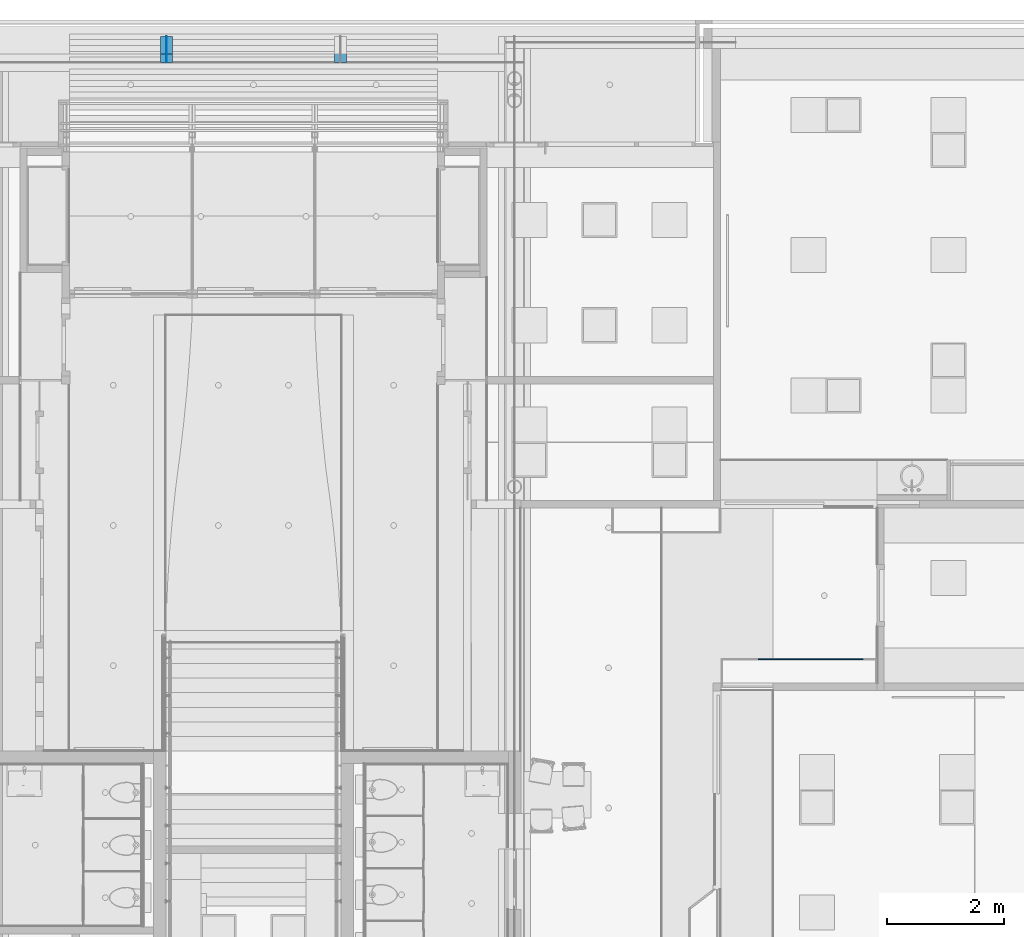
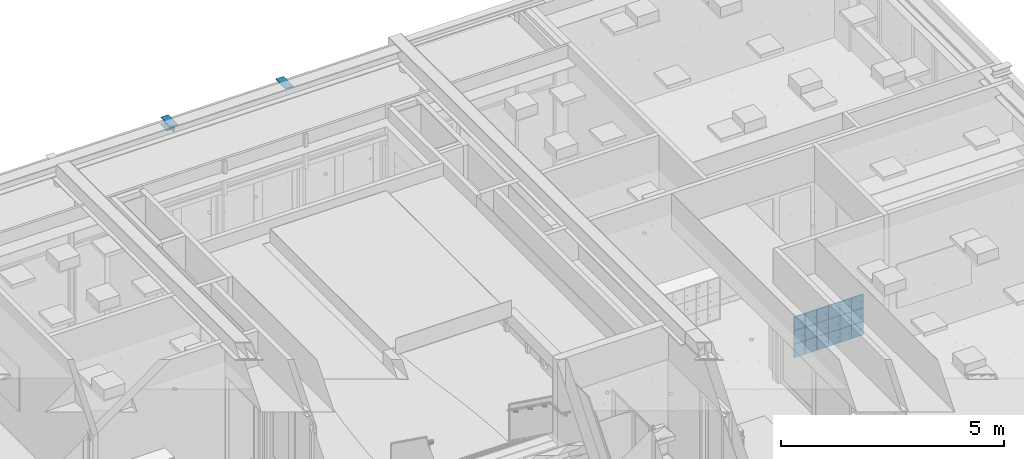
# One storey, part 147 of 347: 22 building element parts, 3 elements without a shape of their own.
"""IFC2X3 building model written with IfcOpenShell, lengths in millimetres."""

from ifc_helpers import new_model, entity, si_unit, converted_unit, derived_unit, money_unit, direction, frame, origin_with_axes, place, context, subcontext, project, spatial, faceted_brep, material, type_object, element, aggregate, save


model = new_model("IFC2X3")

# Units and contexts
model_context = context("Model", 3, precision=0.01, world=origin_with_axes(), true_north=direction((0.0, 1.0)))
plan_context = context("Plan", 3, precision=0.01, world=origin_with_axes(), true_north=direction((0.0, 1.0)))
body_context = subcontext(model_context, "Body", "Model", "MODEL_VIEW")
ifc_project = project(units=[si_unit("LENGTHUNIT", "METRE", prefix="MILLI"), si_unit("AREAUNIT", "SQUARE_METRE"), si_unit("VOLUMEUNIT", "CUBIC_METRE"), converted_unit("PLANEANGLEUNIT", "DEGREE", entity("IfcPlaneAngleMeasure", 0.0174532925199), si_unit("PLANEANGLEUNIT", "RADIAN"), dimensions=[0, 0, 0, 0, 0, 0, 0]), money_unit("EUR"), converted_unit("TIMEUNIT", "Year", entity("IfcTimeMeasure", 31556926.0), si_unit("TIMEUNIT", "SECOND"), dimensions=[0, 0, 1, 0, 0, 0, 0]), si_unit("MASSUNIT", "GRAM", prefix="KILO"), si_unit("THERMODYNAMICTEMPERATUREUNIT", "DEGREE_CELSIUS"), si_unit("LUMINOUSINTENSITYUNIT", "LUMEN"), si_unit("ENERGYUNIT", "JOULE", prefix="MEGA"), derived_unit("THERMALCONDUCTANCEUNIT", [(si_unit("POWERUNIT", "WATT"), 1), (si_unit("LENGTHUNIT", "METRE"), -1), (si_unit("THERMODYNAMICTEMPERATUREUNIT", "KELVIN"), -1)]), derived_unit("SPECIFICHEATCAPACITYUNIT", [(si_unit("ENERGYUNIT", "JOULE"), 1), (si_unit("MASSUNIT", "GRAM", prefix="KILO"), -1), (si_unit("THERMODYNAMICTEMPERATUREUNIT", "KELVIN"), -1)]), derived_unit("MASSDENSITYUNIT", [(si_unit("MASSUNIT", "GRAM", prefix="KILO"), 1), (si_unit("VOLUMEUNIT", "CUBIC_METRE"), -1)])], contexts=[model_context, plan_context])

# Site, building, storey
site_placement = place(None, origin_with_axes())
site = spatial("IfcSite", under=ifc_project, at=site_placement, Name="Site", CompositionType="ELEMENT")
building_placement = place(site_placement, origin_with_axes())
building = spatial("IfcBuilding", under=site, at=building_placement, Name="Naam gebouw", CompositionType="ELEMENT")
storey_placement = place(building_placement, origin_with_axes())
storey = spatial("IfcBuildingStorey", under=building, at=storey_placement, Name="begane grond", CompositionType="ELEMENT", Elevation=0.0)

# Beam, building element parts
beam_type_1 = type_object("IfcBeamType", Name="VI Garderobe 05 2412 x 1122", PredefinedType="BEAM")
beam_1_placement = place(storey_placement, frame((50519.0, 36380.5000133, 0.0), z_axis=(0.0, 0.0, 1.0), x_axis=(-1.0, 0.0, 0.0)))
beam_1 = element("IfcBeam", 1, at=beam_1_placement, inside=storey, type_object=beam_type_1, Name="28_Balk-x", ObjectType="BEAM")
ifc_material_1 = material(Name="Hout - Lockers")
building_element_part_1_placement = place(beam_1_placement, origin_with_axes())
building_element_part_1 = element("IfcBuildingElementPart", 2, at=building_element_part_1_placement, material=ifc_material_1, Name="Hout - Lockers", context=body_context, shape_type="Brep", body=[
    faceted_brep([(0.0, 18.0, 1175.0), (0.0, 18.0, 802.0), (0.0, 0.0, 802.0), (0.0, 0.0, 1175.0), (303.0, 18.0, 1175.0), (303.0, 18.0, 802.0), (76.2025761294, 18.0, 975.016154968), (72.7648820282, 18.0, 985.596289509), (63.7648820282, 18.0, 992.135172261), (52.6402702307, 18.0, 992.135172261), (43.6402702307, 18.0, 985.596289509), (40.2025761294, 18.0, 975.016154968), (43.6402702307, 18.0, 964.436020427), (52.6402702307, 18.0, 957.897137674), (63.7648820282, 18.0, 957.897137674), (72.7648820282, 18.0, 964.436020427), (303.0, 0.0, 802.0), (303.0, 0.0, 1175.0), (76.2025761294, 0.0, 975.016154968), (72.7648820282, 0.0, 964.436020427), (63.7648820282, 0.0, 957.897137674), (52.6402702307, 0.0, 957.897137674), (43.6402702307, 0.0, 964.436020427), (40.2025761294, 0.0, 975.016154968), (43.6402702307, 0.0, 985.596289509), (52.6402702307, 0.0, 992.135172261), (63.7648820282, 0.0, 992.135172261), (72.7648820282, 0.0, 985.596289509)], [[[0, 1, 2, 3]], [[0, 4, 5, 1], [6, 7, 8, 9, 10, 11, 12, 13, 14, 15]], [[1, 5, 16, 2]], [[3, 2, 16, 17], [18, 19, 20, 21, 22, 23, 24, 25, 26, 27]], [[4, 0, 3, 17]], [[5, 4, 17, 16]], [[7, 6, 18, 27]], [[8, 7, 27, 26]], [[9, 8, 26, 25]], [[10, 9, 25, 24]], [[11, 10, 24, 23]], [[12, 11, 23, 22]], [[13, 12, 22, 21]], [[14, 13, 21, 20]], [[15, 14, 20, 19]], [[6, 15, 19, 18]]]),
])
building_element_part_2_placement = place(beam_1_placement, origin_with_axes())
building_element_part_2 = element("IfcBuildingElementPart", 3, at=building_element_part_2_placement, material=ifc_material_1, Name="Hout - Lockers", context=body_context, shape_type="Brep", body=[
    faceted_brep([(0.0, 18.0, 796.0), (0.0, 18.0, 432.0), (0.0, 0.0, 432.0), (0.0, 0.0, 796.0), (303.0, 18.0, 796.0), (303.0, 18.0, 432.0), (44.5601698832, 18.0, 596.032777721), (47.9978639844, 18.0, 585.45264318), (56.9978639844, 18.0, 578.913760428), (68.1224757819, 18.0, 578.913760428), (77.1224757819, 18.0, 585.45264318), (80.5601698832, 18.0, 596.032777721), (77.1224757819, 18.0, 606.612912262), (68.1224757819, 18.0, 613.151795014), (56.9978639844, 18.0, 613.151795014), (47.9978639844, 18.0, 606.612912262), (303.0, 0.0, 432.0), (303.0, 0.0, 796.0), (44.5601698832, 0.0, 596.032777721), (47.9978639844, 0.0, 606.612912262), (56.9978639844, 0.0, 613.151795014), (68.1224757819, 0.0, 613.151795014), (77.1224757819, 0.0, 606.612912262), (80.5601698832, 0.0, 596.032777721), (77.1224757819, 0.0, 585.45264318), (68.1224757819, 0.0, 578.913760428), (56.9978639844, 0.0, 578.913760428), (47.9978639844, 0.0, 585.45264318)], [[[0, 1, 2, 3]], [[0, 4, 5, 1], [6, 7, 8, 9, 10, 11, 12, 13, 14, 15]], [[1, 5, 16, 2]], [[3, 2, 16, 17], [18, 19, 20, 21, 22, 23, 24, 25, 26, 27]], [[4, 0, 3, 17]], [[5, 4, 17, 16]], [[7, 6, 18, 27]], [[8, 7, 27, 26]], [[9, 8, 26, 25]], [[10, 9, 25, 24]], [[11, 10, 24, 23]], [[12, 11, 23, 22]], [[13, 12, 22, 21]], [[14, 13, 21, 20]], [[15, 14, 20, 19]], [[6, 15, 19, 18]]]),
])
building_element_part_3_placement = place(beam_1_placement, origin_with_axes())
building_element_part_3 = element("IfcBuildingElementPart", 4, at=building_element_part_3_placement, material=ifc_material_1, Name="Hout - Lockers", context=body_context, shape_type="Brep", body=[
    faceted_brep([(0.0, 18.0, 426.0), (0.0, 18.0, 53.0), (0.0, 0.0, 53.0), (0.0, 0.0, 426.0), (303.0, 18.0, 426.0), (303.0, 18.0, 53.0), (78.0, 18.0, 226.0), (74.5623058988, 18.0, 236.580134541), (65.5623058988, 18.0, 243.119017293), (54.4376941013, 18.0, 243.119017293), (45.4376941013, 18.0, 236.580134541), (42.0, 18.0, 226.0), (45.4376941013, 18.0, 215.419865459), (54.4376941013, 18.0, 208.880982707), (65.5623058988, 18.0, 208.880982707), (74.5623058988, 18.0, 215.419865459), (303.0, 0.0, 53.0), (303.0, 0.0, 426.0), (78.0, 0.0, 226.0), (74.5623058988, 0.0, 215.419865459), (65.5623058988, 0.0, 208.880982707), (54.4376941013, 0.0, 208.880982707), (45.4376941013, 0.0, 215.419865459), (42.0, 0.0, 226.0), (45.4376941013, 0.0, 236.580134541), (54.4376941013, 0.0, 243.119017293), (65.5623058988, 0.0, 243.119017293), (74.5623058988, 0.0, 236.580134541)], [[[0, 1, 2, 3]], [[0, 4, 5, 1], [6, 7, 8, 9, 10, 11, 12, 13, 14, 15]], [[1, 5, 16, 2]], [[3, 2, 16, 17], [18, 19, 20, 21, 22, 23, 24, 25, 26, 27]], [[4, 0, 3, 17]], [[5, 4, 17, 16]], [[7, 6, 18, 27]], [[8, 7, 27, 26]], [[9, 8, 26, 25]], [[10, 9, 25, 24]], [[11, 10, 24, 23]], [[12, 11, 23, 22]], [[13, 12, 22, 21]], [[14, 13, 21, 20]], [[15, 14, 20, 19]], [[6, 15, 19, 18]]]),
])
building_element_part_4_placement = place(beam_1_placement, origin_with_axes())
building_element_part_4 = element("IfcBuildingElementPart", 5, at=building_element_part_4_placement, material=ifc_material_1, Name="Hout - Lockers", context=body_context, shape_type="Brep", body=[
    faceted_brep([(1509.0, 18.0, 1175.0), (1509.0, 18.0, 802.0), (1509.0, 0.0, 802.0), (1509.0, 0.0, 1175.0), (1803.0, 18.0, 1175.0), (1803.0, 18.0, 802.0), (1587.0, 18.0, 975.0), (1583.5623059, 18.0, 985.580134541), (1574.5623059, 18.0, 992.119017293), (1563.4376941, 18.0, 992.119017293), (1554.4376941, 18.0, 985.580134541), (1551.0, 18.0, 975.0), (1554.4376941, 18.0, 964.419865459), (1563.4376941, 18.0, 957.880982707), (1574.5623059, 18.0, 957.880982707), (1583.5623059, 18.0, 964.419865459), (1803.0, 0.0, 802.0), (1803.0, 0.0, 1175.0), (1587.0, 0.0, 975.0), (1583.5623059, 0.0, 964.419865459), (1574.5623059, 0.0, 957.880982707), (1563.4376941, 0.0, 957.880982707), (1554.4376941, 0.0, 964.419865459), (1551.0, 0.0, 975.0), (1554.4376941, 0.0, 985.580134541), (1563.4376941, 0.0, 992.119017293), (1574.5623059, 0.0, 992.119017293), (1583.5623059, 0.0, 985.580134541)], [[[0, 1, 2, 3]], [[0, 4, 5, 1], [6, 7, 8, 9, 10, 11, 12, 13, 14, 15]], [[1, 5, 16, 2]], [[3, 2, 16, 17], [18, 19, 20, 21, 22, 23, 24, 25, 26, 27]], [[4, 0, 3, 17]], [[5, 4, 17, 16]], [[7, 6, 18, 27]], [[8, 7, 27, 26]], [[9, 8, 26, 25]], [[10, 9, 25, 24]], [[11, 10, 24, 23]], [[12, 11, 23, 22]], [[13, 12, 22, 21]], [[14, 13, 21, 20]], [[15, 14, 20, 19]], [[6, 15, 19, 18]]]),
])
building_element_part_5_placement = place(beam_1_placement, origin_with_axes())
building_element_part_5 = element("IfcBuildingElementPart", 6, at=building_element_part_5_placement, material=ifc_material_1, Name="Hout - Lockers", context=body_context, shape_type="Brep", body=[
    faceted_brep([(1509.0, 18.0, 796.0), (1509.0, 18.0, 432.0), (1509.0, 0.0, 432.0), (1509.0, 0.0, 796.0), (1803.0, 18.0, 796.0), (1803.0, 18.0, 432.0), (1587.0, 18.0, 596.0), (1583.5623059, 18.0, 606.580134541), (1574.5623059, 18.0, 613.119017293), (1563.4376941, 18.0, 613.119017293), (1554.4376941, 18.0, 606.580134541), (1551.0, 18.0, 596.0), (1554.4376941, 18.0, 585.419865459), (1563.4376941, 18.0, 578.880982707), (1574.5623059, 18.0, 578.880982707), (1583.5623059, 18.0, 585.419865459), (1803.0, 0.0, 432.0), (1803.0, 0.0, 796.0), (1587.0, 0.0, 596.0), (1583.5623059, 0.0, 585.419865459), (1574.5623059, 0.0, 578.880982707), (1563.4376941, 0.0, 578.880982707), (1554.4376941, 0.0, 585.419865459), (1551.0, 0.0, 596.0), (1554.4376941, 0.0, 606.580134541), (1563.4376941, 0.0, 613.119017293), (1574.5623059, 0.0, 613.119017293), (1583.5623059, 0.0, 606.580134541)], [[[0, 1, 2, 3]], [[0, 4, 5, 1], [6, 7, 8, 9, 10, 11, 12, 13, 14, 15]], [[1, 5, 16, 2]], [[3, 2, 16, 17], [18, 19, 20, 21, 22, 23, 24, 25, 26, 27]], [[4, 0, 3, 17]], [[5, 4, 17, 16]], [[7, 6, 18, 27]], [[8, 7, 27, 26]], [[9, 8, 26, 25]], [[10, 9, 25, 24]], [[11, 10, 24, 23]], [[12, 11, 23, 22]], [[13, 12, 22, 21]], [[14, 13, 21, 20]], [[15, 14, 20, 19]], [[6, 15, 19, 18]]]),
])
building_element_part_6_placement = place(beam_1_placement, origin_with_axes())
building_element_part_6 = element("IfcBuildingElementPart", 7, at=building_element_part_6_placement, material=ifc_material_1, Name="Hout - Lockers", context=body_context, shape_type="Brep", body=[
    faceted_brep([(1509.0, 18.0, 426.0), (1509.0, 18.0, 53.0), (1509.0, 0.0, 53.0), (1509.0, 0.0, 426.0), (1803.0, 18.0, 426.0), (1803.0, 18.0, 53.0), (1587.0, 18.0, 226.0), (1583.5623059, 18.0, 236.580134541), (1574.5623059, 18.0, 243.119017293), (1563.4376941, 18.0, 243.119017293), (1554.4376941, 18.0, 236.580134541), (1551.0, 18.0, 226.0), (1554.4376941, 18.0, 215.419865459), (1563.4376941, 18.0, 208.880982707), (1574.5623059, 18.0, 208.880982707), (1583.5623059, 18.0, 215.419865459), (1803.0, 0.0, 53.0), (1803.0, 0.0, 426.0), (1587.0, 0.0, 226.0), (1583.5623059, 0.0, 215.419865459), (1574.5623059, 0.0, 208.880982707), (1563.4376941, 0.0, 208.880982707), (1554.4376941, 0.0, 215.419865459), (1551.0, 0.0, 226.0), (1554.4376941, 0.0, 236.580134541), (1563.4376941, 0.0, 243.119017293), (1574.5623059, 0.0, 243.119017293), (1583.5623059, 0.0, 236.580134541)], [[[0, 1, 2, 3]], [[0, 4, 5, 1], [6, 7, 8, 9, 10, 11, 12, 13, 14, 15]], [[1, 5, 16, 2]], [[3, 2, 16, 17], [18, 19, 20, 21, 22, 23, 24, 25, 26, 27]], [[4, 0, 3, 17]], [[5, 4, 17, 16]], [[7, 6, 18, 27]], [[8, 7, 27, 26]], [[9, 8, 26, 25]], [[10, 9, 25, 24]], [[11, 10, 24, 23]], [[12, 11, 23, 22]], [[13, 12, 22, 21]], [[14, 13, 21, 20]], [[15, 14, 20, 19]], [[6, 15, 19, 18]]]),
])
building_element_part_7_placement = place(beam_1_placement, origin_with_axes())
building_element_part_7 = element("IfcBuildingElementPart", 8, at=building_element_part_7_placement, material=ifc_material_1, Name="Hout - Lockers", context=body_context, shape_type="Brep", body=[
    faceted_brep([(1209.0, 18.0, 1175.0), (1209.0, 18.0, 802.0), (1209.0, 0.0, 802.0), (1209.0, 0.0, 1175.0), (1503.0, 18.0, 1175.0), (1503.0, 18.0, 802.0), (1287.0, 18.0, 975.0), (1283.5623059, 18.0, 985.580134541), (1274.5623059, 18.0, 992.119017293), (1263.4376941, 18.0, 992.119017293), (1254.4376941, 18.0, 985.580134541), (1251.0, 18.0, 975.0), (1254.4376941, 18.0, 964.419865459), (1263.4376941, 18.0, 957.880982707), (1274.5623059, 18.0, 957.880982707), (1283.5623059, 18.0, 964.419865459), (1503.0, 0.0, 802.0), (1503.0, 0.0, 1175.0), (1287.0, 0.0, 975.0), (1283.5623059, 0.0, 964.419865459), (1274.5623059, 0.0, 957.880982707), (1263.4376941, 0.0, 957.880982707), (1254.4376941, 0.0, 964.419865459), (1251.0, 0.0, 975.0), (1254.4376941, 0.0, 985.580134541), (1263.4376941, 0.0, 992.119017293), (1274.5623059, 0.0, 992.119017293), (1283.5623059, 0.0, 985.580134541)], [[[0, 1, 2, 3]], [[0, 4, 5, 1], [6, 7, 8, 9, 10, 11, 12, 13, 14, 15]], [[1, 5, 16, 2]], [[3, 2, 16, 17], [18, 19, 20, 21, 22, 23, 24, 25, 26, 27]], [[4, 0, 3, 17]], [[5, 4, 17, 16]], [[7, 6, 18, 27]], [[8, 7, 27, 26]], [[9, 8, 26, 25]], [[10, 9, 25, 24]], [[11, 10, 24, 23]], [[12, 11, 23, 22]], [[13, 12, 22, 21]], [[14, 13, 21, 20]], [[15, 14, 20, 19]], [[6, 15, 19, 18]]]),
])
building_element_part_8_placement = place(beam_1_placement, origin_with_axes())
building_element_part_8 = element("IfcBuildingElementPart", 9, at=building_element_part_8_placement, material=ifc_material_1, Name="Hout - Lockers", context=body_context, shape_type="Brep", body=[
    faceted_brep([(1209.0, 18.0, 796.0), (1209.0, 18.0, 432.0), (1209.0, 0.0, 432.0), (1209.0, 0.0, 796.0), (1503.0, 18.0, 796.0), (1503.0, 18.0, 432.0), (1287.0, 18.0, 596.0), (1283.5623059, 18.0, 606.580134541), (1274.5623059, 18.0, 613.119017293), (1263.4376941, 18.0, 613.119017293), (1254.4376941, 18.0, 606.580134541), (1251.0, 18.0, 596.0), (1254.4376941, 18.0, 585.419865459), (1263.4376941, 18.0, 578.880982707), (1274.5623059, 18.0, 578.880982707), (1283.5623059, 18.0, 585.419865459), (1503.0, 0.0, 432.0), (1503.0, 0.0, 796.0), (1287.0, 0.0, 596.0), (1283.5623059, 0.0, 585.419865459), (1274.5623059, 0.0, 578.880982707), (1263.4376941, 0.0, 578.880982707), (1254.4376941, 0.0, 585.419865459), (1251.0, 0.0, 596.0), (1254.4376941, 0.0, 606.580134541), (1263.4376941, 0.0, 613.119017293), (1274.5623059, 0.0, 613.119017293), (1283.5623059, 0.0, 606.580134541)], [[[0, 1, 2, 3]], [[0, 4, 5, 1], [6, 7, 8, 9, 10, 11, 12, 13, 14, 15]], [[1, 5, 16, 2]], [[3, 2, 16, 17], [18, 19, 20, 21, 22, 23, 24, 25, 26, 27]], [[4, 0, 3, 17]], [[5, 4, 17, 16]], [[7, 6, 18, 27]], [[8, 7, 27, 26]], [[9, 8, 26, 25]], [[10, 9, 25, 24]], [[11, 10, 24, 23]], [[12, 11, 23, 22]], [[13, 12, 22, 21]], [[14, 13, 21, 20]], [[15, 14, 20, 19]], [[6, 15, 19, 18]]]),
])
building_element_part_9_placement = place(beam_1_placement, origin_with_axes())
building_element_part_9 = element("IfcBuildingElementPart", 10, at=building_element_part_9_placement, material=ifc_material_1, Name="Hout - Lockers", context=body_context, shape_type="Brep", body=[
    faceted_brep([(1209.0, 18.0, 426.0), (1209.0, 18.0, 53.0), (1209.0, 0.0, 53.0), (1209.0, 0.0, 426.0), (1503.0, 18.0, 426.0), (1503.0, 18.0, 53.0), (1287.0, 18.0, 226.0), (1283.5623059, 18.0, 236.580134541), (1274.5623059, 18.0, 243.119017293), (1263.4376941, 18.0, 243.119017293), (1254.4376941, 18.0, 236.580134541), (1251.0, 18.0, 226.0), (1254.4376941, 18.0, 215.419865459), (1263.4376941, 18.0, 208.880982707), (1274.5623059, 18.0, 208.880982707), (1283.5623059, 18.0, 215.419865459), (1503.0, 0.0, 53.0), (1503.0, 0.0, 426.0), (1287.0, 0.0, 226.0), (1283.5623059, 0.0, 215.419865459), (1274.5623059, 0.0, 208.880982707), (1263.4376941, 0.0, 208.880982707), (1254.4376941, 0.0, 215.419865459), (1251.0, 0.0, 226.0), (1254.4376941, 0.0, 236.580134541), (1263.4376941, 0.0, 243.119017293), (1274.5623059, 0.0, 243.119017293), (1283.5623059, 0.0, 236.580134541)], [[[0, 1, 2, 3]], [[0, 4, 5, 1], [6, 7, 8, 9, 10, 11, 12, 13, 14, 15]], [[1, 5, 16, 2]], [[3, 2, 16, 17], [18, 19, 20, 21, 22, 23, 24, 25, 26, 27]], [[4, 0, 3, 17]], [[5, 4, 17, 16]], [[7, 6, 18, 27]], [[8, 7, 27, 26]], [[9, 8, 26, 25]], [[10, 9, 25, 24]], [[11, 10, 24, 23]], [[12, 11, 23, 22]], [[13, 12, 22, 21]], [[14, 13, 21, 20]], [[15, 14, 20, 19]], [[6, 15, 19, 18]]]),
])
building_element_part_10_placement = place(beam_1_placement, origin_with_axes())
building_element_part_10 = element("IfcBuildingElementPart", 11, at=building_element_part_10_placement, material=ifc_material_1, Name="Hout - Lockers", context=body_context, shape_type="Brep", body=[
    faceted_brep([(309.0, 18.0, 1175.0), (309.0, 18.0, 802.0), (309.0, 0.0, 802.0), (309.0, 0.0, 1175.0), (603.0, 18.0, 1175.0), (603.0, 18.0, 802.0), (387.0, 18.0, 975.0), (383.562305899, 18.0, 985.580134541), (374.562305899, 18.0, 992.119017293), (363.437694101, 18.0, 992.119017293), (354.437694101, 18.0, 985.580134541), (351.0, 18.0, 975.0), (354.437694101, 18.0, 964.419865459), (363.437694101, 18.0, 957.880982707), (374.562305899, 18.0, 957.880982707), (383.562305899, 18.0, 964.419865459), (603.0, 0.0, 802.0), (603.0, 0.0, 1175.0), (387.0, 0.0, 975.0), (383.562305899, 0.0, 964.419865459), (374.562305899, 0.0, 957.880982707), (363.437694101, 0.0, 957.880982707), (354.437694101, 0.0, 964.419865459), (351.0, 0.0, 975.0), (354.437694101, 0.0, 985.580134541), (363.437694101, 0.0, 992.119017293), (374.562305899, 0.0, 992.119017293), (383.562305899, 0.0, 985.580134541)], [[[0, 1, 2, 3]], [[0, 4, 5, 1], [6, 7, 8, 9, 10, 11, 12, 13, 14, 15]], [[1, 5, 16, 2]], [[3, 2, 16, 17], [18, 19, 20, 21, 22, 23, 24, 25, 26, 27]], [[4, 0, 3, 17]], [[5, 4, 17, 16]], [[7, 6, 18, 27]], [[8, 7, 27, 26]], [[9, 8, 26, 25]], [[10, 9, 25, 24]], [[11, 10, 24, 23]], [[12, 11, 23, 22]], [[13, 12, 22, 21]], [[14, 13, 21, 20]], [[15, 14, 20, 19]], [[6, 15, 19, 18]]]),
])
building_element_part_11_placement = place(beam_1_placement, origin_with_axes())
building_element_part_11 = element("IfcBuildingElementPart", 12, at=building_element_part_11_placement, material=ifc_material_1, Name="Hout - Lockers", context=body_context, shape_type="Brep", body=[
    faceted_brep([(309.0, 18.0, 796.0), (309.0, 18.0, 432.0), (309.0, 0.0, 432.0), (309.0, 0.0, 796.0), (603.0, 18.0, 796.0), (603.0, 18.0, 432.0), (387.0, 18.0, 596.0), (383.562305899, 18.0, 606.580134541), (374.562305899, 18.0, 613.119017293), (363.437694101, 18.0, 613.119017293), (354.437694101, 18.0, 606.580134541), (351.0, 18.0, 596.0), (354.437694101, 18.0, 585.419865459), (363.437694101, 18.0, 578.880982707), (374.562305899, 18.0, 578.880982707), (383.562305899, 18.0, 585.419865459), (603.0, 0.0, 432.0), (603.0, 0.0, 796.0), (387.0, 0.0, 596.0), (383.562305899, 0.0, 585.419865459), (374.562305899, 0.0, 578.880982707), (363.437694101, 0.0, 578.880982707), (354.437694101, 0.0, 585.419865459), (351.0, 0.0, 596.0), (354.437694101, 0.0, 606.580134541), (363.437694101, 0.0, 613.119017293), (374.562305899, 0.0, 613.119017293), (383.562305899, 0.0, 606.580134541)], [[[0, 1, 2, 3]], [[0, 4, 5, 1], [6, 7, 8, 9, 10, 11, 12, 13, 14, 15]], [[1, 5, 16, 2]], [[3, 2, 16, 17], [18, 19, 20, 21, 22, 23, 24, 25, 26, 27]], [[4, 0, 3, 17]], [[5, 4, 17, 16]], [[7, 6, 18, 27]], [[8, 7, 27, 26]], [[9, 8, 26, 25]], [[10, 9, 25, 24]], [[11, 10, 24, 23]], [[12, 11, 23, 22]], [[13, 12, 22, 21]], [[14, 13, 21, 20]], [[15, 14, 20, 19]], [[6, 15, 19, 18]]]),
])
building_element_part_12_placement = place(beam_1_placement, origin_with_axes())
building_element_part_12 = element("IfcBuildingElementPart", 13, at=building_element_part_12_placement, material=ifc_material_1, Name="Hout - Lockers", context=body_context, shape_type="Brep", body=[
    faceted_brep([(309.0, 18.0, 426.0), (309.0, 18.0, 53.0), (309.0, 0.0, 53.0), (309.0, 0.0, 426.0), (603.0, 18.0, 426.0), (603.0, 18.0, 53.0), (387.0, 18.0, 226.0), (383.562305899, 18.0, 236.580134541), (374.562305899, 18.0, 243.119017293), (363.437694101, 18.0, 243.119017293), (354.437694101, 18.0, 236.580134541), (351.0, 18.0, 226.0), (354.437694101, 18.0, 215.419865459), (363.437694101, 18.0, 208.880982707), (374.562305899, 18.0, 208.880982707), (383.562305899, 18.0, 215.419865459), (603.0, 0.0, 53.0), (603.0, 0.0, 426.0), (387.0, 0.0, 226.0), (383.562305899, 0.0, 215.419865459), (374.562305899, 0.0, 208.880982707), (363.437694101, 0.0, 208.880982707), (354.437694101, 0.0, 215.419865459), (351.0, 0.0, 226.0), (354.437694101, 0.0, 236.580134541), (363.437694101, 0.0, 243.119017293), (374.562305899, 0.0, 243.119017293), (383.562305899, 0.0, 236.580134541)], [[[0, 1, 2, 3]], [[0, 4, 5, 1], [6, 7, 8, 9, 10, 11, 12, 13, 14, 15]], [[1, 5, 16, 2]], [[3, 2, 16, 17], [18, 19, 20, 21, 22, 23, 24, 25, 26, 27]], [[4, 0, 3, 17]], [[5, 4, 17, 16]], [[7, 6, 18, 27]], [[8, 7, 27, 26]], [[9, 8, 26, 25]], [[10, 9, 25, 24]], [[11, 10, 24, 23]], [[12, 11, 23, 22]], [[13, 12, 22, 21]], [[14, 13, 21, 20]], [[15, 14, 20, 19]], [[6, 15, 19, 18]]]),
])
building_element_part_13_placement = place(beam_1_placement, origin_with_axes())
building_element_part_13 = element("IfcBuildingElementPart", 14, at=building_element_part_13_placement, material=ifc_material_1, Name="Hout - Lockers", context=body_context, shape_type="Brep", body=[
    faceted_brep([(909.0, 18.0, 1175.0), (909.0, 18.0, 802.0), (909.0, 0.0, 802.0), (909.0, 0.0, 1175.0), (1203.0, 18.0, 1175.0), (1203.0, 18.0, 802.0), (987.0, 18.0, 975.0), (983.562305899, 18.0, 985.580134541), (974.562305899, 18.0, 992.119017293), (963.437694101, 18.0, 992.119017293), (954.437694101, 18.0, 985.580134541), (951.0, 18.0, 975.0), (954.437694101, 18.0, 964.419865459), (963.437694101, 18.0, 957.880982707), (974.562305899, 18.0, 957.880982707), (983.562305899, 18.0, 964.419865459), (1203.0, 0.0, 802.0), (1203.0, 0.0, 1175.0), (987.0, 0.0, 975.0), (983.562305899, 0.0, 964.419865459), (974.562305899, 0.0, 957.880982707), (963.437694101, 0.0, 957.880982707), (954.437694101, 0.0, 964.419865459), (951.0, 0.0, 975.0), (954.437694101, 0.0, 985.580134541), (963.437694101, 0.0, 992.119017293), (974.562305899, 0.0, 992.119017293), (983.562305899, 0.0, 985.580134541)], [[[0, 1, 2, 3]], [[0, 4, 5, 1], [6, 7, 8, 9, 10, 11, 12, 13, 14, 15]], [[1, 5, 16, 2]], [[3, 2, 16, 17], [18, 19, 20, 21, 22, 23, 24, 25, 26, 27]], [[4, 0, 3, 17]], [[5, 4, 17, 16]], [[7, 6, 18, 27]], [[8, 7, 27, 26]], [[9, 8, 26, 25]], [[10, 9, 25, 24]], [[11, 10, 24, 23]], [[12, 11, 23, 22]], [[13, 12, 22, 21]], [[14, 13, 21, 20]], [[15, 14, 20, 19]], [[6, 15, 19, 18]]]),
])
building_element_part_14_placement = place(beam_1_placement, origin_with_axes())
building_element_part_14 = element("IfcBuildingElementPart", 15, at=building_element_part_14_placement, material=ifc_material_1, Name="Hout - Lockers", context=body_context, shape_type="Brep", body=[
    faceted_brep([(909.0, 18.0, 796.0), (909.0, 18.0, 432.0), (909.0, 0.0, 432.0), (909.0, 0.0, 796.0), (1203.0, 18.0, 796.0), (1203.0, 18.0, 432.0), (987.0, 18.0, 596.0), (983.562305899, 18.0, 606.580134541), (974.562305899, 18.0, 613.119017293), (963.437694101, 18.0, 613.119017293), (954.437694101, 18.0, 606.580134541), (951.0, 18.0, 596.0), (954.437694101, 18.0, 585.419865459), (963.437694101, 18.0, 578.880982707), (974.562305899, 18.0, 578.880982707), (983.562305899, 18.0, 585.419865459), (1203.0, 0.0, 432.0), (1203.0, 0.0, 796.0), (987.0, 0.0, 596.0), (983.562305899, 0.0, 585.419865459), (974.562305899, 0.0, 578.880982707), (963.437694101, 0.0, 578.880982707), (954.437694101, 0.0, 585.419865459), (951.0, 0.0, 596.0), (954.437694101, 0.0, 606.580134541), (963.437694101, 0.0, 613.119017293), (974.562305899, 0.0, 613.119017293), (983.562305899, 0.0, 606.580134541)], [[[0, 1, 2, 3]], [[0, 4, 5, 1], [6, 7, 8, 9, 10, 11, 12, 13, 14, 15]], [[1, 5, 16, 2]], [[3, 2, 16, 17], [18, 19, 20, 21, 22, 23, 24, 25, 26, 27]], [[4, 0, 3, 17]], [[5, 4, 17, 16]], [[7, 6, 18, 27]], [[8, 7, 27, 26]], [[9, 8, 26, 25]], [[10, 9, 25, 24]], [[11, 10, 24, 23]], [[12, 11, 23, 22]], [[13, 12, 22, 21]], [[14, 13, 21, 20]], [[15, 14, 20, 19]], [[6, 15, 19, 18]]]),
])
building_element_part_15_placement = place(beam_1_placement, origin_with_axes())
building_element_part_15 = element("IfcBuildingElementPart", 16, at=building_element_part_15_placement, material=ifc_material_1, Name="Hout - Lockers", context=body_context, shape_type="Brep", body=[
    faceted_brep([(909.0, 18.0, 426.0), (909.0, 18.0, 53.0), (909.0, 0.0, 53.0), (909.0, 0.0, 426.0), (1203.0, 18.0, 426.0), (1203.0, 18.0, 53.0), (987.0, 18.0, 226.0), (983.562305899, 18.0, 236.580134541), (974.562305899, 18.0, 243.119017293), (963.437694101, 18.0, 243.119017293), (954.437694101, 18.0, 236.580134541), (951.0, 18.0, 226.0), (954.437694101, 18.0, 215.419865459), (963.437694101, 18.0, 208.880982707), (974.562305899, 18.0, 208.880982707), (983.562305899, 18.0, 215.419865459), (1203.0, 0.0, 53.0), (1203.0, 0.0, 426.0), (987.0, 0.0, 226.0), (983.562305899, 0.0, 215.419865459), (974.562305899, 0.0, 208.880982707), (963.437694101, 0.0, 208.880982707), (954.437694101, 0.0, 215.419865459), (951.0, 0.0, 226.0), (954.437694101, 0.0, 236.580134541), (963.437694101, 0.0, 243.119017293), (974.562305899, 0.0, 243.119017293), (983.562305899, 0.0, 236.580134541)], [[[0, 1, 2, 3]], [[0, 4, 5, 1], [6, 7, 8, 9, 10, 11, 12, 13, 14, 15]], [[1, 5, 16, 2]], [[3, 2, 16, 17], [18, 19, 20, 21, 22, 23, 24, 25, 26, 27]], [[4, 0, 3, 17]], [[5, 4, 17, 16]], [[7, 6, 18, 27]], [[8, 7, 27, 26]], [[9, 8, 26, 25]], [[10, 9, 25, 24]], [[11, 10, 24, 23]], [[12, 11, 23, 22]], [[13, 12, 22, 21]], [[14, 13, 21, 20]], [[15, 14, 20, 19]], [[6, 15, 19, 18]]]),
])
building_element_part_16_placement = place(beam_1_placement, origin_with_axes())
building_element_part_16 = element("IfcBuildingElementPart", 17, at=building_element_part_16_placement, material=ifc_material_1, Name="Hout - Lockers", context=body_context, shape_type="Brep", body=[
    faceted_brep([(609.0, 18.0, 1175.0), (609.0, 18.0, 802.0), (609.0, 0.0, 802.0), (609.0, 0.0, 1175.0), (903.0, 18.0, 1175.0), (903.0, 18.0, 802.0), (687.0, 18.0, 975.0), (683.562305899, 18.0, 985.580134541), (674.562305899, 18.0, 992.119017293), (663.437694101, 18.0, 992.119017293), (654.437694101, 18.0, 985.580134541), (651.0, 18.0, 975.0), (654.437694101, 18.0, 964.419865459), (663.437694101, 18.0, 957.880982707), (674.562305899, 18.0, 957.880982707), (683.562305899, 18.0, 964.419865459), (903.0, 0.0, 802.0), (903.0, 0.0, 1175.0), (687.0, 0.0, 975.0), (683.562305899, 0.0, 964.419865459), (674.562305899, 0.0, 957.880982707), (663.437694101, 0.0, 957.880982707), (654.437694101, 0.0, 964.419865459), (651.0, 0.0, 975.0), (654.437694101, 0.0, 985.580134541), (663.437694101, 0.0, 992.119017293), (674.562305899, 0.0, 992.119017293), (683.562305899, 0.0, 985.580134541)], [[[0, 1, 2, 3]], [[0, 4, 5, 1], [6, 7, 8, 9, 10, 11, 12, 13, 14, 15]], [[1, 5, 16, 2]], [[3, 2, 16, 17], [18, 19, 20, 21, 22, 23, 24, 25, 26, 27]], [[4, 0, 3, 17]], [[5, 4, 17, 16]], [[7, 6, 18, 27]], [[8, 7, 27, 26]], [[9, 8, 26, 25]], [[10, 9, 25, 24]], [[11, 10, 24, 23]], [[12, 11, 23, 22]], [[13, 12, 22, 21]], [[14, 13, 21, 20]], [[15, 14, 20, 19]], [[6, 15, 19, 18]]]),
])
building_element_part_17_placement = place(beam_1_placement, origin_with_axes())
building_element_part_17 = element("IfcBuildingElementPart", 18, at=building_element_part_17_placement, material=ifc_material_1, Name="Hout - Lockers", context=body_context, shape_type="Brep", body=[
    faceted_brep([(609.0, 18.0, 796.0), (609.0, 18.0, 432.0), (609.0, 0.0, 432.0), (609.0, 0.0, 796.0), (903.0, 18.0, 796.0), (903.0, 18.0, 432.0), (687.0, 18.0, 596.0), (683.562305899, 18.0, 606.580134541), (674.562305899, 18.0, 613.119017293), (663.437694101, 18.0, 613.119017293), (654.437694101, 18.0, 606.580134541), (651.0, 18.0, 596.0), (654.437694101, 18.0, 585.419865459), (663.437694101, 18.0, 578.880982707), (674.562305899, 18.0, 578.880982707), (683.562305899, 18.0, 585.419865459), (903.0, 0.0, 432.0), (903.0, 0.0, 796.0), (687.0, 0.0, 596.0), (683.562305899, 0.0, 585.419865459), (674.562305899, 0.0, 578.880982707), (663.437694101, 0.0, 578.880982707), (654.437694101, 0.0, 585.419865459), (651.0, 0.0, 596.0), (654.437694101, 0.0, 606.580134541), (663.437694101, 0.0, 613.119017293), (674.562305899, 0.0, 613.119017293), (683.562305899, 0.0, 606.580134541)], [[[0, 1, 2, 3]], [[0, 4, 5, 1], [6, 7, 8, 9, 10, 11, 12, 13, 14, 15]], [[1, 5, 16, 2]], [[3, 2, 16, 17], [18, 19, 20, 21, 22, 23, 24, 25, 26, 27]], [[4, 0, 3, 17]], [[5, 4, 17, 16]], [[7, 6, 18, 27]], [[8, 7, 27, 26]], [[9, 8, 26, 25]], [[10, 9, 25, 24]], [[11, 10, 24, 23]], [[12, 11, 23, 22]], [[13, 12, 22, 21]], [[14, 13, 21, 20]], [[15, 14, 20, 19]], [[6, 15, 19, 18]]]),
])
building_element_part_18_placement = place(beam_1_placement, origin_with_axes())
building_element_part_18 = element("IfcBuildingElementPart", 19, at=building_element_part_18_placement, material=ifc_material_1, Name="Hout - Lockers", context=body_context, shape_type="Brep", body=[
    faceted_brep([(609.0, 18.0, 426.0), (609.0, 18.0, 53.0), (609.0, 0.0, 53.0), (609.0, 0.0, 426.0), (903.0, 18.0, 426.0), (903.0, 18.0, 53.0), (687.0, 18.0, 226.0), (683.562305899, 18.0, 236.580134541), (674.562305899, 18.0, 243.119017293), (663.437694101, 18.0, 243.119017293), (654.437694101, 18.0, 236.580134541), (651.0, 18.0, 226.0), (654.437694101, 18.0, 215.419865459), (663.437694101, 18.0, 208.880982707), (674.562305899, 18.0, 208.880982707), (683.562305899, 18.0, 215.419865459), (903.0, 0.0, 53.0), (903.0, 0.0, 426.0), (687.0, 0.0, 226.0), (683.562305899, 0.0, 215.419865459), (674.562305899, 0.0, 208.880982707), (663.437694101, 0.0, 208.880982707), (654.437694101, 0.0, 215.419865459), (651.0, 0.0, 226.0), (654.437694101, 0.0, 236.580134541), (663.437694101, 0.0, 243.119017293), (674.562305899, 0.0, 243.119017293), (683.562305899, 0.0, 236.580134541)], [[[0, 1, 2, 3]], [[0, 4, 5, 1], [6, 7, 8, 9, 10, 11, 12, 13, 14, 15]], [[1, 5, 16, 2]], [[3, 2, 16, 17], [18, 19, 20, 21, 22, 23, 24, 25, 26, 27]], [[4, 0, 3, 17]], [[5, 4, 17, 16]], [[7, 6, 18, 27]], [[8, 7, 27, 26]], [[9, 8, 26, 25]], [[10, 9, 25, 24]], [[11, 10, 24, 23]], [[12, 11, 23, 22]], [[13, 12, 22, 21]], [[14, 13, 21, 20]], [[15, 14, 20, 19]], [[6, 15, 19, 18]]]),
])
aggregate(beam_1, [building_element_part_1, building_element_part_2, building_element_part_3, building_element_part_4, building_element_part_5, building_element_part_6, building_element_part_7, building_element_part_8, building_element_part_9, building_element_part_10, building_element_part_11, building_element_part_12, building_element_part_13, building_element_part_14, building_element_part_15, building_element_part_16, building_element_part_17, building_element_part_18])

beam_type_2 = type_object("IfcBeamType", Name="28 HEB200 200 x 200", PredefinedType="BEAM")
beam_2_placement = place(storey_placement, frame((38585.0, 46587.0, 3560.0), z_axis=(0.0, 0.0, 1.0), x_axis=(1.0, 0.0, 0.0)))
beam_2 = element("IfcBeam", 20, at=beam_2_placement, inside=storey, type_object=beam_type_2, Name="28_Balk-x", ObjectType="BEAM")
ifc_material_2 = material(Name="Metaal - Staal C")
building_element_part_19_placement = place(beam_2_placement, origin_with_axes())
building_element_part_19 = element("IfcBuildingElementPart", 21, at=building_element_part_19_placement, material=ifc_material_2, Name="Metaal - Staal C", context=body_context, shape_type="Brep", body=[
    faceted_brep([(-100.0, 5.49999999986, 200.0), (100.0, 5.50000000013, 200.0), (100.0, 450.0, 200.0), (-100.0, 450.0, 200.0), (100.0, 5.50000000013, 185.0), (-100.0, 5.49999999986, 185.0), (-4.5, 5.49999999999, 185.0), (4.5, 5.5, 185.0), (100.0, 450.0, 185.0), (4.5, 450.0, 185.0), (-4.5, 450.0, 185.0), (-100.0, 450.0, 185.0)], [[[0, 1, 2, 3]], [[4, 1, 0, 5, 6, 7]], [[1, 4, 8, 2]], [[9, 10, 11, 3, 2, 8]], [[5, 0, 3, 11]], [[6, 5, 11, 10]], [[7, 6, 10, 9]], [[4, 7, 9, 8]]]),
])
building_element_part_20_placement = place(beam_2_placement, origin_with_axes())
building_element_part_20 = element("IfcBuildingElementPart", 22, at=building_element_part_20_placement, material=ifc_material_2, Name="Metaal - Staal C", context=body_context, shape_type="Brep", body=[
    faceted_brep([(4.50000000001, 150.0, 15.0), (100.0, 150.0, 15.0), (100.0, 450.0, 15.0), (4.5, 450.0, 15.0), (100.0, 150.0, 0.0), (-4.49999999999, 150.0, 15.0), (-100.0, 150.0, 15.0), (-100.0, 150.0, 0.0), (100.0, 450.0, 0.0), (-100.0, 450.0, 0.0), (-100.0, 450.0, 15.0), (-4.5, 450.0, 15.0)], [[[0, 1, 2, 3]], [[4, 1, 0, 5, 6, 7]], [[1, 4, 8, 2]], [[8, 9, 10, 11, 3, 2]], [[5, 0, 3, 11]], [[6, 5, 11, 10]], [[7, 6, 10, 9]], [[4, 7, 9, 8]]]),
])
building_element_part_21_placement = place(beam_2_placement, origin_with_axes())
building_element_part_21 = element("IfcBuildingElementPart", 23, at=building_element_part_21_placement, material=ifc_material_2, Name="Metaal - Staal C", context=body_context, shape_type="Brep", body=[
    faceted_brep([(4.5, 5.5, 185.0), (4.5, 5.5, 19.0), (4.5, 150.0, 19.0), (4.50000000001, 150.0, 15.0), (4.5, 450.0, 15.0), (4.5, 450.0, 185.0), (-4.5, 5.49999999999, 185.0), (-4.5, 5.49999999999, 19.0), (-4.5, 150.0, 19.0), (-4.49999999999, 150.0, 15.0), (-4.5, 450.0, 15.0), (-4.5, 450.0, 185.0)], [[[0, 1, 2, 3, 4, 5]], [[1, 0, 6, 7]], [[2, 1, 7, 8]], [[3, 2, 8, 9]], [[3, 9, 10, 4]], [[5, 4, 10, 11]], [[6, 0, 5, 11]], [[7, 6, 11, 10, 9, 8]]]),
])
aggregate(beam_2, [building_element_part_19, building_element_part_20, building_element_part_21])

# Beam, building element part
beam_3_placement = place(storey_placement, frame((41565.0, 46587.0, 3560.0), z_axis=(0.0, 0.0, 1.0), x_axis=(1.0, 0.0, 0.0)))
beam_3 = element("IfcBeam", 24, at=beam_3_placement, inside=storey, type_object=beam_type_2, Name="28_Balk-x", ObjectType="BEAM")
building_element_part_22_placement = place(beam_3_placement, origin_with_axes())
building_element_part_22 = element("IfcBuildingElementPart", 25, at=building_element_part_22_placement, material=ifc_material_2, Name="Metaal - Staal C", context=body_context, shape_type="Brep", body=[
    faceted_brep([(-100.0, 5.49999999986, 200.0), (100.0, 5.50000000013, 200.0), (100.0, 450.0, 200.0), (-100.0, 450.0, 200.0), (100.0, 5.50000000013, 185.0), (-100.0, 5.49999999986, 185.0), (-4.5, 5.49999999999, 185.0), (4.5, 5.5, 185.0), (100.0, 450.0, 185.0), (4.5, 450.0, 185.0), (-4.5, 450.0, 185.0), (-100.0, 450.0, 185.0)], [[[0, 1, 2, 3]], [[4, 1, 0, 5, 6, 7]], [[1, 4, 8, 2]], [[9, 10, 11, 3, 2, 8]], [[5, 0, 3, 11]], [[6, 5, 11, 10]], [[7, 6, 10, 9]], [[4, 7, 9, 8]]]),
])
aggregate(beam_3, [building_element_part_22])

save(model, "model.ifc")
